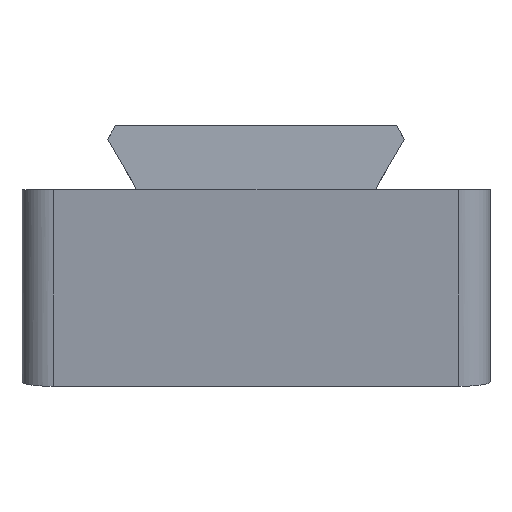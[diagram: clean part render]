
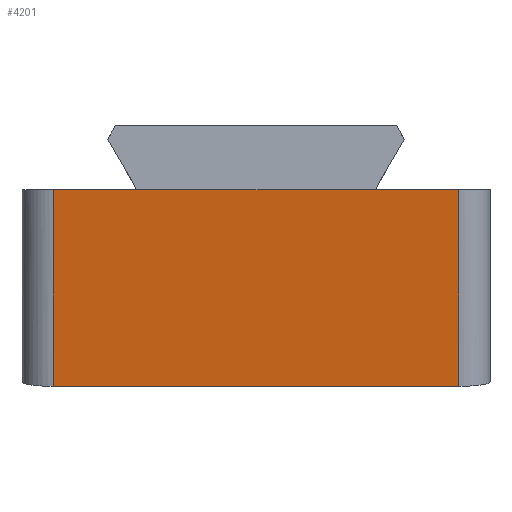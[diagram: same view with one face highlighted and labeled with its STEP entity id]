
A CAD part, left-side view. The second image highlights one B-rep face of the part: STEP entity #4201.
In plain terms, the highlighted planar face has unit normal (-0.99, 0, -0.139).
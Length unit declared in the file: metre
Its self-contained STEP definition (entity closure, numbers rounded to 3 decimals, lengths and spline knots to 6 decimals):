
#664=ORIENTED_EDGE('',*,*,#1764,.T.);
#665=ORIENTED_EDGE('',*,*,#1909,.T.);
#666=ORIENTED_EDGE('',*,*,#1694,.F.);
#667=ORIENTED_EDGE('',*,*,#1910,.T.);
#668=ORIENTED_EDGE('',*,*,#1776,.T.);
#669=ORIENTED_EDGE('',*,*,#1904,.T.);
#1694=EDGE_CURVE('',#2335,#2336,#2762,.T.);
#1764=EDGE_CURVE('',#2396,#2403,#2807,.T.);
#1776=EDGE_CURVE('',#2412,#2388,#2813,.T.);
#1904=EDGE_CURVE('',#2388,#2396,#2869,.T.);
#1909=EDGE_CURVE('',#2403,#2336,#2870,.T.);
#1910=EDGE_CURVE('',#2335,#2412,#2871,.F.);
#2335=VERTEX_POINT('',#5638);
#2336=VERTEX_POINT('',#5640);
#2388=VERTEX_POINT('',#5751);
#2396=VERTEX_POINT('',#5769);
#2403=VERTEX_POINT('',#5786);
#2412=VERTEX_POINT('',#5808);
#2762=LINE('',#5639,#3139);
#2807=LINE('',#5787,#3184);
#2813=LINE('',#5807,#3190);
#2869=LINE('',#6154,#3246);
#2870=LINE('',#6166,#3247);
#2871=LINE('',#6167,#3248);
#3139=VECTOR('',#4718,1.);
#3184=VECTOR('',#4833,1.);
#3190=VECTOR('',#4851,1.);
#3246=VECTOR('',#4971,1.);
#3247=VECTOR('',#4990,1.);
#3248=VECTOR('',#4991,1.);
#3555=EDGE_LOOP('',(#664,#665,#666,#667,#668,#669));
#3832=FACE_BOUND('',#3555,.T.);
#4084=PLANE('',#4517);
#4201=ADVANCED_FACE('',(#3832),#4084,.F.);
#4517=AXIS2_PLACEMENT_3D('',#6165,#4988,#4989);
#4718=DIRECTION('',(0.,1.,0.));
#4833=DIRECTION('',(0.,1.,0.));
#4851=DIRECTION('',(0.,1.,0.));
#4971=DIRECTION('',(0.,1.,0.));
#4988=DIRECTION('',(0.99,0.,0.139));
#4989=DIRECTION('',(0.139,0.,-0.99));
#4990=DIRECTION('',(0.139,0.,-0.99));
#4991=DIRECTION('',(0.139,0.,-0.99));
#5638=CARTESIAN_POINT('',(0.001772,-0.013,-0.012606));
#5639=CARTESIAN_POINT('',(0.001772,-0.015,-0.012606));
#5640=CARTESIAN_POINT('',(0.001772,0.013,-0.012606));
#5751=CARTESIAN_POINT('',(0.,-0.007695,0.));
#5769=CARTESIAN_POINT('',(0.,0.007695,0.));
#5786=CARTESIAN_POINT('',(0.,0.013,0.));
#5787=CARTESIAN_POINT('',(0.,-0.015,0.));
#5807=CARTESIAN_POINT('',(0.,-0.015,0.));
#5808=CARTESIAN_POINT('',(0.,-0.013,0.));
#6154=CARTESIAN_POINT('',(0.,0.,0.));
#6165=CARTESIAN_POINT('',(0.000886,-0.015,-0.006303));
#6166=CARTESIAN_POINT('',(0.000886,0.013,-0.006303));
#6167=CARTESIAN_POINT('',(0.,-0.013,0.));
